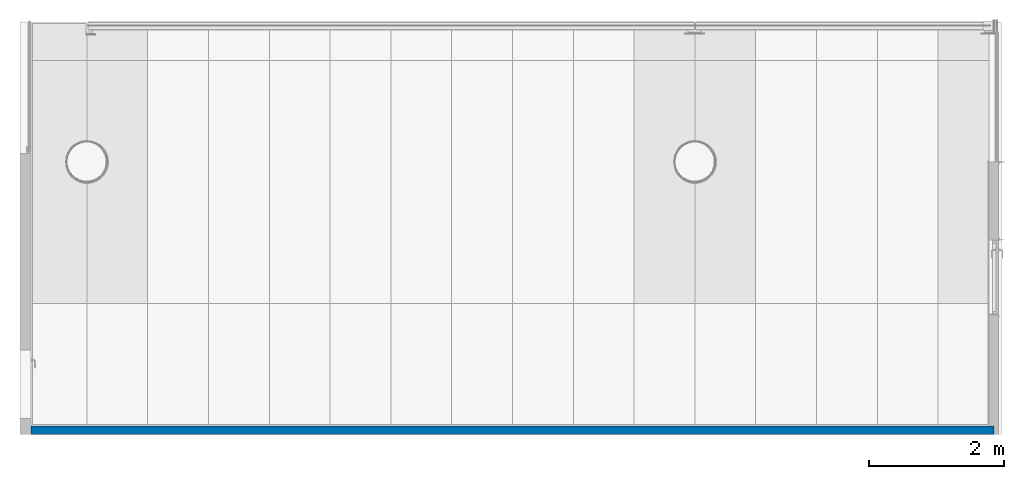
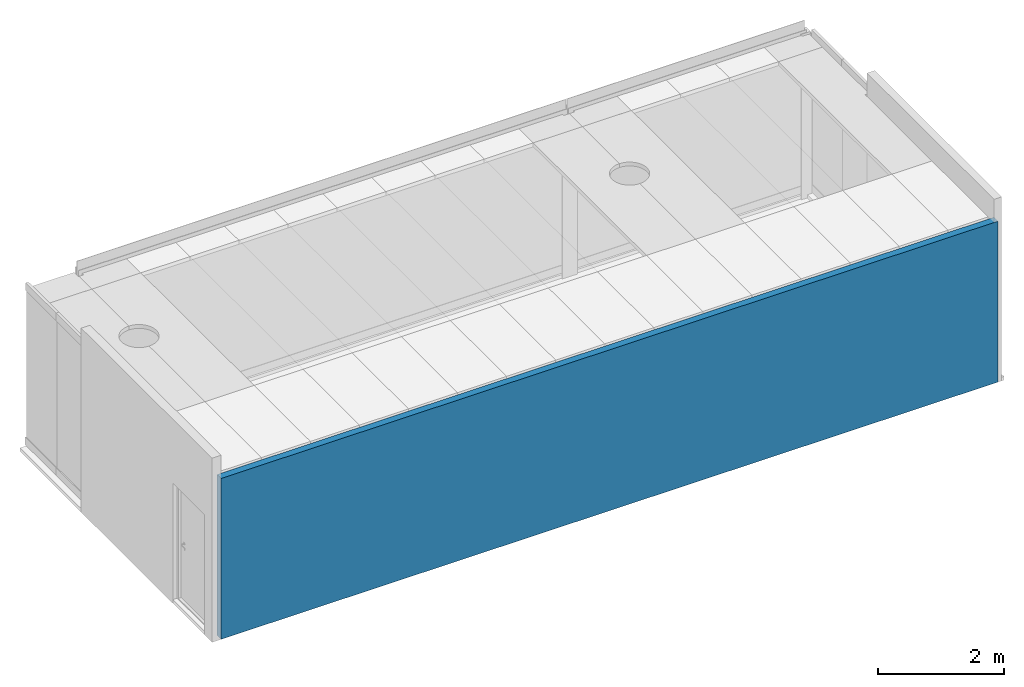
# One storey, part 4 of 12: 1 wall.
"""IFC2X3 building model written with IfcOpenShell, lengths in millimetres."""

from ifc_helpers import new_model, entity, si_unit, converted_unit, derived_unit, direction, frame, frame_2d, origin, origin_with_axes, place, context, subcontext, project, spatial, rectangle, extrude, material, layer, layer_set, layer_usage, type_object, element, save


model = new_model("IFC2X3")

# Units and contexts
model_context = context("Model", 3, precision=0.01, world=frame((0.0, 4.29681676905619e-09, 0.0)), true_north=direction((6.12323399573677e-17, 1.0)))
plan_context = context("Plan", 3, precision=0.01, world=frame((0.0, 4.29681676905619e-09, 0.0)), true_north=direction((6.12323399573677e-17, 1.0)))
body_context = subcontext(model_context, "Body", "Model", "MODEL_VIEW")
ifc_project = project(units=[converted_unit("PLANEANGLEUNIT", "DEGREE", entity("IfcPositiveLengthMeasure", 0.0174532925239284), si_unit("PLANEANGLEUNIT", "RADIAN"), dimensions=[0, 0, 0, 0, 0, 0, 0]), si_unit("AREAUNIT", "SQUARE_METRE"), si_unit("LENGTHUNIT", "METRE", prefix="MILLI"), si_unit("MASSUNIT", "GRAM", prefix="KILO"), si_unit("POWERUNIT", "WATT"), si_unit("PRESSUREUNIT", "PASCAL", prefix="KILO"), si_unit("FORCEUNIT", "NEWTON", prefix="KILO"), si_unit("ELECTRICVOLTAGEUNIT", "VOLT"), si_unit("ELECTRICCURRENTUNIT", "AMPERE"), si_unit("THERMODYNAMICTEMPERATUREUNIT", "DEGREE_CELSIUS"), si_unit("TIMEUNIT", "SECOND"), si_unit("VOLUMEUNIT", "CUBIC_METRE"), derived_unit("LINEARVELOCITYUNIT", [(si_unit("LENGTHUNIT", "METRE"), 1), (si_unit("TIMEUNIT", "SECOND"), -1)]), derived_unit("VOLUMETRICFLOWRATEUNIT", [(si_unit("VOLUMEUNIT", "CUBIC_METRE"), 1), (si_unit("TIMEUNIT", "SECOND"), -1)]), derived_unit("THERMALTRANSMITTANCEUNIT", [(si_unit("POWERUNIT", "WATT"), 1), (si_unit("THERMODYNAMICTEMPERATUREUNIT", "KELVIN"), -1), (si_unit("AREAUNIT", "SQUARE_METRE"), -1)]), derived_unit("SOUNDPRESSUREUNIT", [(si_unit("PRESSUREUNIT", "PASCAL"), 1)])], contexts=[model_context, plan_context])

# Site, building, storey
site_placement = place(None, origin_with_axes())
site = spatial("IfcSite", under=ifc_project, at=site_placement, Name="ENGM", CompositionType="ELEMENT")
building_placement = place(site_placement, origin_with_axes())
building = spatial("IfcBuilding", under=site, at=building_placement, Name="TH", CompositionType="ELEMENT")
storey_placement = place(building_placement, frame((0.0, 0.0, 210200.0), z_axis=(0.0, 0.0, 1.0), x_axis=(1.0, 0.0, 0.0)))
storey = spatial("IfcBuildingStorey", under=building, at=storey_placement, Name="Nivå F - 0,7 m", CompositionType="ELEMENT", Elevation=210200.0)

# Wall
ifc_material_1 = material(Name="T2_Gips Robust")
ifc_layer_1 = layer(ifc_material_1, 12.5)
ifc_material_2 = material(Name="_NSW X-finer")
ifc_layer_2 = layer(ifc_material_2, 15.0)
ifc_material_3 = material(Name="_NSW Stålstender, uisolert")
ifc_layer_3 = layer(ifc_material_3, 100.0)
ifc_layer_set = layer_set([ifc_layer_1, ifc_layer_2, ifc_layer_3], Name="Basic Wall:A241 - RXV-100")
ifc_layer_usage = layer_usage(ifc_layer_set, "AXIS2", "NEGATIVE", 63.75)
wall_type = type_object("IfcWallType", Name="Basic Wall:A241 - RXV-100", PredefinedType="STANDARD", material=ifc_layer_set)
wall_placement = place(storey_placement, frame((1116175.0, 462426.249999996, -70.0), z_axis=(0.0, 0.0, 1.0), x_axis=(1.0, 0.0, 0.0)))
element("IfcWallStandardCase", 1, at=wall_placement, inside=storey, type_object=wall_type, material=ifc_layer_usage, Name="Basic Wall:A241 - RXV-100", ObjectType="Basic Wall:A241 - RXV-100", context=body_context, shape_type="SweptSolid", body=[
    extrude(rectangle(XDim=14249.7998418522, YDim=127.500000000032, at=frame_2d((7124.89992092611, 9.1979757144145e-12), x_axis=(-1.0, 0.0))), origin(), (0.0, 0.0, 1.0), 3119.99999999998),
])

save(model, "model.ifc")
